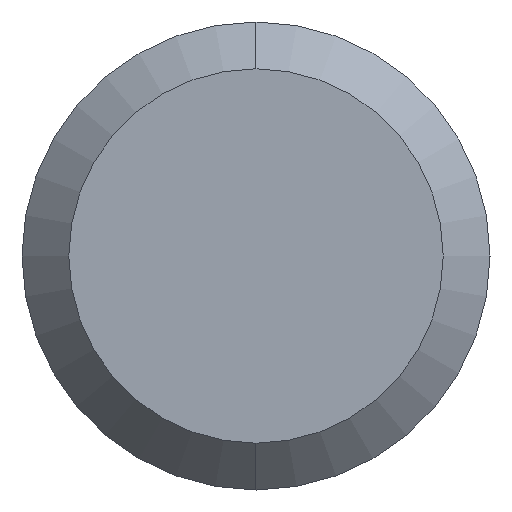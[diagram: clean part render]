
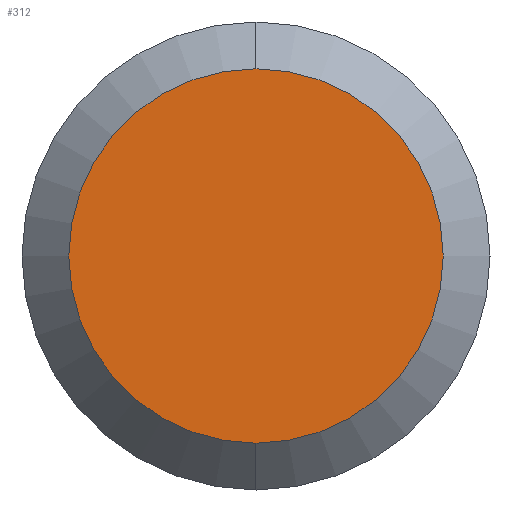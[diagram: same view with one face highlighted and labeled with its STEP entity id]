
A CAD part, left-side view. The second image highlights one B-rep face of the part: STEP entity #312.
In plain terms, the highlighted planar face has unit normal (-1, 0, 0).
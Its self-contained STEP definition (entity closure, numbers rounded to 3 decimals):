
#4 = AXIS2_PLACEMENT_3D ( 'NONE', #216, #88, #25 ) ;
#5 = CARTESIAN_POINT ( 'NONE',  ( 0., 0., -7.2 ) ) ;
#20 = DIRECTION ( 'NONE',  ( 1., 0., 0. ) ) ;
#25 = DIRECTION ( 'NONE',  ( 0., 0., 1. ) ) ;
#31 = DIRECTION ( 'NONE',  ( -1., 0., 0. ) ) ;
#41 = EDGE_CURVE ( 'NONE', #189, #304, #97, .T. ) ;
#73 = AXIS2_PLACEMENT_3D ( 'NONE', #83, #20, #237 ) ;
#83 = CARTESIAN_POINT ( 'NONE',  ( 0., 7.2, 0. ) ) ;
#88 = DIRECTION ( 'NONE',  ( -1., 0., 0. ) ) ;
#97 = CIRCLE ( 'NONE', #4, 7.2 ) ;
#136 = CARTESIAN_POINT ( 'NONE',  ( 0., 0., 7.2 ) ) ;
#139 = EDGE_LOOP ( 'NONE', ( #325, #263 ) ) ;
#149 = DIRECTION ( 'NONE',  ( 0., 0., 1. ) ) ;
#189 = VERTEX_POINT ( 'NONE', #5 ) ;
#216 = CARTESIAN_POINT ( 'NONE',  ( 0., 0., 0. ) ) ;
#231 = AXIS2_PLACEMENT_3D ( 'NONE', #301, #31, #149 ) ;
#237 = DIRECTION ( 'NONE',  ( 0., 0., -1. ) ) ;
#255 = FACE_OUTER_BOUND ( 'NONE', #139, .T. ) ;
#263 = ORIENTED_EDGE ( 'NONE', *, *, #349, .T. ) ;
#286 = CIRCLE ( 'NONE', #231, 7.2 ) ;
#291 = PLANE ( 'NONE',  #73 ) ;
#301 = CARTESIAN_POINT ( 'NONE',  ( 0., 0., 0. ) ) ;
#304 = VERTEX_POINT ( 'NONE', #136 ) ;
#312 = ADVANCED_FACE ( 'NONE', ( #255 ), #291, .F. ) ;
#325 = ORIENTED_EDGE ( 'NONE', *, *, #41, .T. ) ;
#349 = EDGE_CURVE ( 'NONE', #304, #189, #286, .T. ) ;
